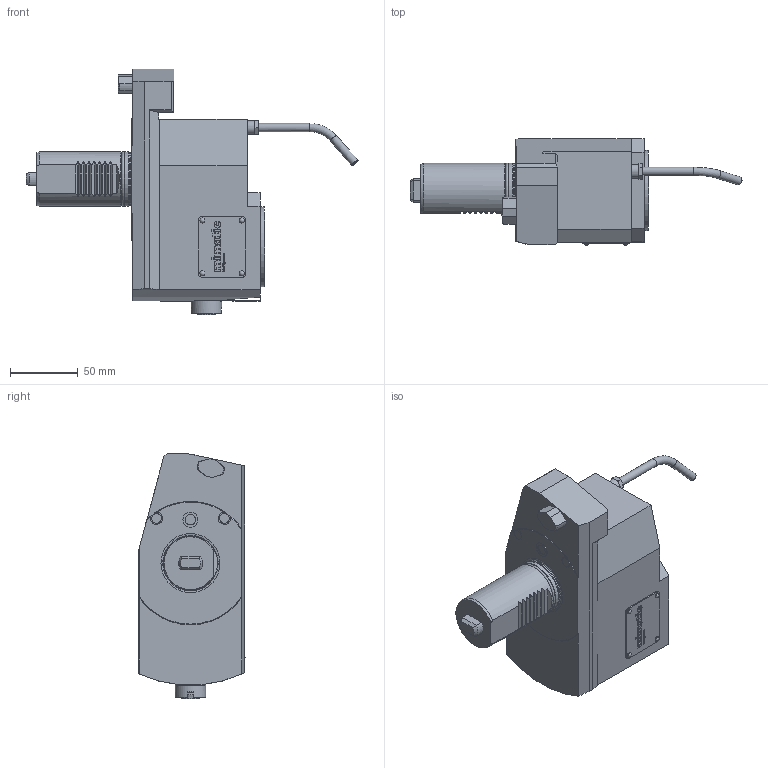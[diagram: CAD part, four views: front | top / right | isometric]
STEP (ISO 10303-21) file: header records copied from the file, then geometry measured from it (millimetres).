
FILE_DESCRIPTION(/* description */ (''),/* implementation_level */ '2;1');
FILE_NAME(/* name */ '201123-UNI',/* time_stamp */ '2023-05-26T11:44:02+02:00',/* author */ (''),/* organization */ (''),/* preprocessor_version */ 'ST-DEVELOPER v16.5',/* originating_system */ 'HiCAD 2017 2201.0 Build 268',/* authorisation */ '');
FILE_SCHEMA (('AUTOMOTIVE_DESIGN { 1 0 10303 214 1 1 1 1 }'));
Products named in the file (11): Root; Teil; Lasermarkierungen; TRANSLATIONSTEIL_5; TRANSLATIONSTEIL_0; TRANSLATIONSTEIL_2; TRANSLATIONSTEIL_1; Leeres Teil; TRANSLATIONSTEIL_3; TRANSLATIONSTEIL_4
Assembly tree (10 placements, depth 4):
  Root
    Teil
      Lasermarkierungen
        TRANSLATIONSTEIL_5
        TRANSLATIONSTEIL_0
        TRANSLATIONSTEIL_2
        TRANSLATIONSTEIL_1
      Leeres Teil
        TRANSLATIONSTEIL_2
        TRANSLATIONSTEIL_3
        TRANSLATIONSTEIL_4
Bounding box: 244.67 x 78.29 x 181 mm (x, y, z)
Volume: 1032563.1 mm3; surface area: 86201.8 mm2
Topology: 23 solids, 23 shells, 830 faces, 2107 edges, 1389 vertices
Faces by surface type: plane 488, bspline 124, cylinder 119, cone 57, torus 38, sphere 4
Full cylindrical faces by diameter (mm): 2 x4, 2.2 x4, 4 x2, 6 x3, 7.65 x1, 8.1 x1, 10 x1, 11.01 x1, 11.1 x1, 15 x1, 17.8 x1, 18 x1, 22.5 x1, 31.6 x1, 36.7 x1, 39.4 x1, 40 x3, 49.5 x1, 59 x1
Entity records: 49794 total; most frequent: CARTESIAN_POINT 11080, PRESENTATION_STYLE_ASSIGNMENT 4087, DRAUGHTING_PRE_DEFINED_CURVE_FONT 4080, CURVE_STYLE 4080, OVER_RIDING_STYLED_ITEM 4080, ORIENTED_EDGE 4080, COLOUR_RGB 4054, DIRECTION 3472
